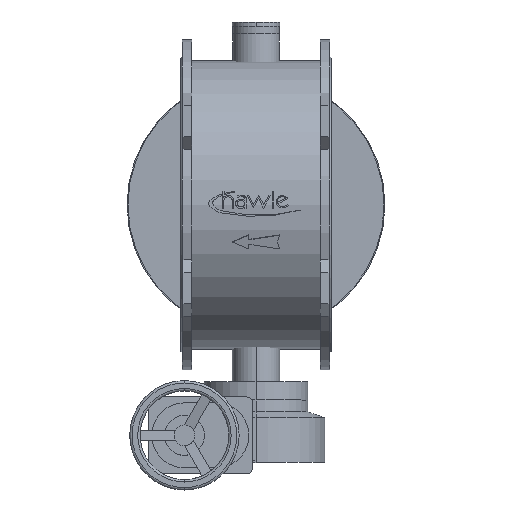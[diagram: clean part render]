
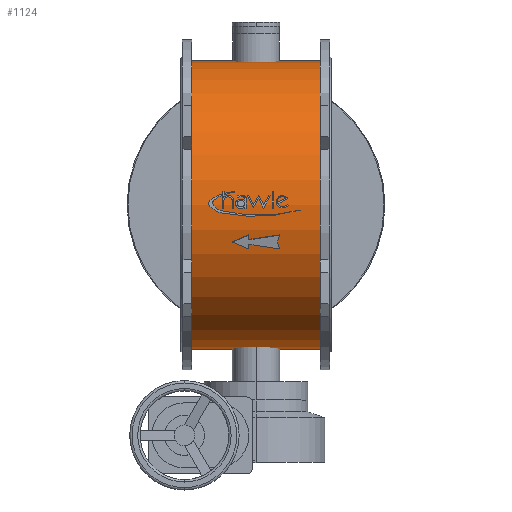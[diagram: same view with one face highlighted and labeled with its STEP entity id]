
A CAD part, top view. The second image highlights one B-rep face of the part: STEP entity #1124.
In plain terms, the highlighted cylindrical face has radius 488 mm (diameter 976 mm), a partial arc.
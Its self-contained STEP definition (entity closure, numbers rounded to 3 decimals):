
#1124=ADVANCED_FACE('',(#2458),#2459,.T.);
#2458=FACE_OUTER_BOUND('',#4450,.T.);
#2459=CYLINDRICAL_SURFACE('',#4451,488.0);
#4450=EDGE_LOOP('',(#6363,#6364,#6365,#6366));
#4451=AXIS2_PLACEMENT_3D('',#6367,#6368,#6369);
#6363=ORIENTED_EDGE('',*,*,#10537,.T.);
#6364=ORIENTED_EDGE('',*,*,#10538,.T.);
#6365=ORIENTED_EDGE('',*,*,#10539,.T.);
#6366=ORIENTED_EDGE('',*,*,#10540,.T.);
#6367=CARTESIAN_POINT('',(-472.5,0.,0.0));
#6368=DIRECTION('',(1.0,0.,0.0));
#6369=DIRECTION('',(0.,-1.0,0.0));
#10537=EDGE_CURVE('',#12432,#12433,#12434,.T.);
#10538=EDGE_CURVE('',#12433,#12435,#12436,.T.);
#10539=EDGE_CURVE('',#12435,#12437,#12438,.T.);
#10540=EDGE_CURVE('',#12437,#12432,#12439,.T.);
#12432=VERTEX_POINT('',#14981);
#12433=VERTEX_POINT('',#14982);
#12434=LINE('',#14983,#14984);
#12435=VERTEX_POINT('',#14985);
#12436=CIRCLE('',#14986,488.0);
#12437=VERTEX_POINT('',#14987);
#12438=LINE('',#14988,#14989);
#12439=CIRCLE('',#14990,488.0);
#14981=CARTESIAN_POINT('',(-472.5,-488.0,0.0));
#14982=CARTESIAN_POINT('',(-37.5,-488.0,0.0));
#14983=CARTESIAN_POINT('',(-472.5,-488.0,0.));
#14984=VECTOR('',#17950,1.0);
#14985=CARTESIAN_POINT('',(-37.5,488.0,0.));
#14986=AXIS2_PLACEMENT_3D('',#17951,#17952,#17953);
#14987=CARTESIAN_POINT('',(-472.5,488.0,0.));
#14988=CARTESIAN_POINT('',(-472.5,488.0,0.));
#14989=VECTOR('',#17954,1.0);
#14990=AXIS2_PLACEMENT_3D('',#17955,#17956,#17957);
#17950=DIRECTION('',(1.0,0.,0.0));
#17951=CARTESIAN_POINT('',(-37.5,0.,0.0));
#17952=DIRECTION('',(-1.0,0.,0.0));
#17953=DIRECTION('',(0.,-1.0,0.0));
#17954=DIRECTION('',(-1.0,0.,-0.0));
#17955=CARTESIAN_POINT('',(-472.5,0.,0.0));
#17956=DIRECTION('',(1.0,0.,0.0));
#17957=DIRECTION('',(0.,-1.0,0.0));
